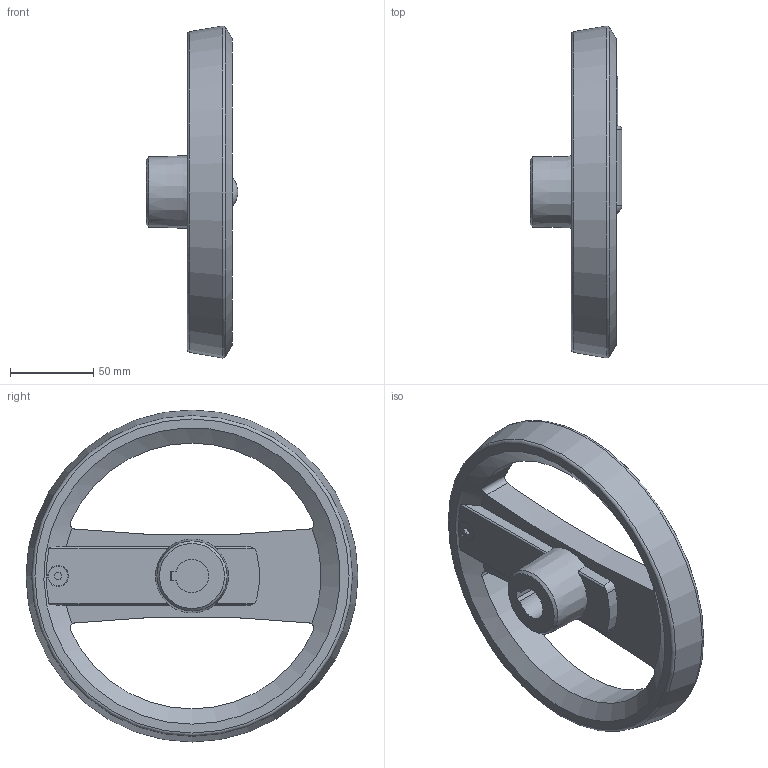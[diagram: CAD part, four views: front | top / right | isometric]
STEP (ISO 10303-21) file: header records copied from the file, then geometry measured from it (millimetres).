
FILE_DESCRIPTION( ( 'STEP AP203' ), '1' );
FILE_NAME( 'C:/Temp/Ganter_Step_05_03_2020/data/1_3/gn_924_3/gn_924_3_k/Handwheel with retractable handle GN 924.3-200-K20-R-SR (unactivated).stp', '2020-03-05T10:41:21', ( 'License CC BY-ND 4.0' ), ( 'CADENAS' ), ' ', 'PARTsolutions', ' ' );
FILE_SCHEMA( ( 'CONFIG_CONTROL_DESIGN' ) );
Length unit declared in the file: millimetre
Products named in the file (3): Handwheel with retractable handle GN 924.3-200-K20-R-SR (unactivated); _Umleggriff-Handrad GN 924.3-200-K20-R-SR-1; _Umleggriff-Handrad GN 924.3-200-K20-R-SR-2
Assembly tree (2 placements, depth 2):
  Handwheel with retractable handle GN 924.3-200-K20-R-SR (unactivated)
    _Umleggriff-Handrad GN 924.3-200-K20-R-SR-1
    _Umleggriff-Handrad GN 924.3-200-K20-R-SR-2
Bounding box: 55.2 x 199.58 x 199.58 mm (x, y, z)
Volume: 415313.6 mm3; surface area: 85489.9 mm2
Topology: 2 solids, 2 shells, 105 faces, 273 edges, 174 vertices
Faces by surface type: plane 47, cylinder 39, cone 10, torus 7, sphere 2
Full cylindrical faces by diameter (mm): 3.96 x2, 4 x2, 5 x1, 10 x1, 12 x1, 20 x1, 25 x2, 26.6 x1
Entity records: 3463 total; most frequent: CARTESIAN_POINT 933, DIRECTION 510, ORIENTED_EDGE 468, EDGE_CURVE 234, AXIS2_PLACEMENT_3D 205, VERTEX_POINT 167, EDGE_LOOP 144, FACE_OUTER_BOUND 123
